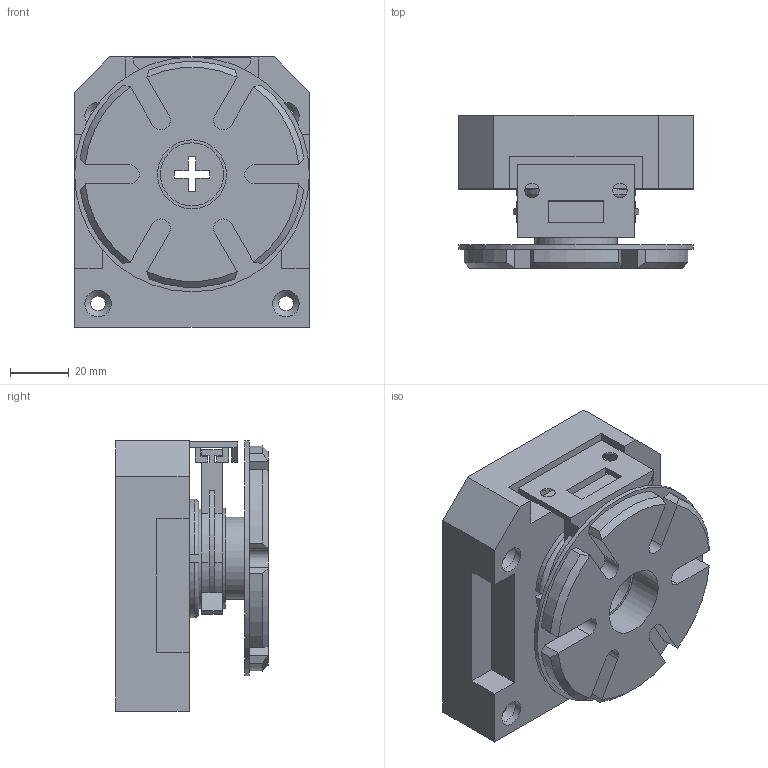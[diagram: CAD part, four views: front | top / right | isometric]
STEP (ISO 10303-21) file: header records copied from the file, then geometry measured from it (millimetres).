
FILE_DESCRIPTION(/* description */ (''),/* implementation_level */ '2;1');
FILE_NAME(/* name */ 'D:\$Workingspace\Designs\Meblowka\Nóżki meblowe\Multi Leg\NM-MLA_min_wys.stp',/* time_stamp */ '2020-02-07T13:42:18+01:00',/* author */ ('tomaszw'),/* organization */ (''),/* preprocessor_version */ 'ST-DEVELOPER v18',/* originating_system */ 'Autodesk Inventor 2020',/* authorisation */ '');
FILE_SCHEMA (('AUTOMOTIVE_DESIGN { 1 0 10303 214 3 1 1 }'));
Length unit declared in the file: millimetre
Products named in the file (6): Multi leg - nóżka + mocowanie; Podstawa nóżki; Tuleja; Stopka; Klips; Mocowanie cokołu
Assembly tree (5 placements, depth 2):
  Multi leg - nóżka + mocowanie
    Podstawa nóżki
    Tuleja
    Stopka
    Klips
    Mocowanie cokołu
Bounding box: 80 x 52 x 92 mm (x, y, z)
Volume: 192514.8 mm3; surface area: 62337.6 mm2
Topology: 5 solids, 5 shells, 275 faces, 764 edges, 508 vertices
Faces by surface type: plane 184, cylinder 62, cone 25, torus 4
Full cylindrical faces by diameter (mm): 5 x4, 9 x4, 21.5 x1, 23.5 x1, 26 x1, 28 x1, 29.5 x1, 32.8 x2, 34 x1, 80 x1
Entity records: 9139 total; most frequent: CARTESIAN_POINT 1691, ORIENTED_EDGE 1528, DIRECTION 1514, EDGE_CURVE 764, LINE 524, VECTOR 524, VERTEX_POINT 508, AXIS2_PLACEMENT_3D 495
